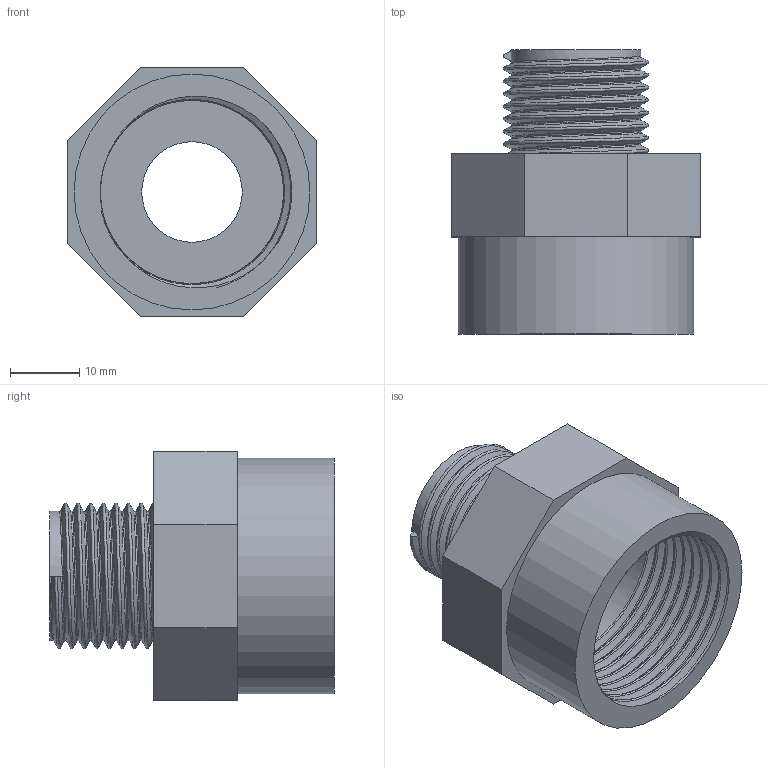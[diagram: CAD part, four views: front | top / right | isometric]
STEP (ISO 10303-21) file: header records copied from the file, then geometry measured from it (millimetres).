
FILE_DESCRIPTION(/* description */ ('PVC riduzione filettata BSP femmina-maschio (maggioratore filettato BSP M-F)'),/* implementation_level */ '2;1');
FILE_NAME(/* name */ 'C:\Users\POLYPIPE\Desktop\DATASET INVENTOR\LIBRERIA EFFAST\RACCORDI 3DxWEB\RER\3D_RERMGE\3D_RERMGE020C.stp',/* time_stamp */ '2018-01-19T16:39:45+01:00',/* author */ ('POLYPIPE'),/* organization */ ('Polypipe Italia s.r.l.'),/* preprocessor_version */ 'ST-DEVELOPER v16.1',/* originating_system */ 'Autodesk Inventor 2016',/* authorisation */ '');
FILE_SCHEMA (('CONFIG_CONTROL_DESIGN'));
Length unit declared in the file: millimetre
Products named in the file (1): 3D_RERMGE
Bounding box: 36 x 41 x 36 mm (x, y, z)
Volume: 15087.1 mm3; surface area: 9867.8 mm2
Topology: 1 solids, 1 shells, 29 faces, 69 edges, 45 vertices
Faces by surface type: plane 15, bspline 10, cylinder 4
Full cylindrical faces by diameter (mm): 14.5 x1, 18.631 x1, 26.441 x1, 34 x1
Entity records: 7199 total; most frequent: CARTESIAN_POINT 6584, ORIENTED_EDGE 128, DIRECTION 94, EDGE_CURVE 64, VERTEX_POINT 43, EDGE_LOOP 37, AXIS2_PLACEMENT_3D 32, LINE 30
